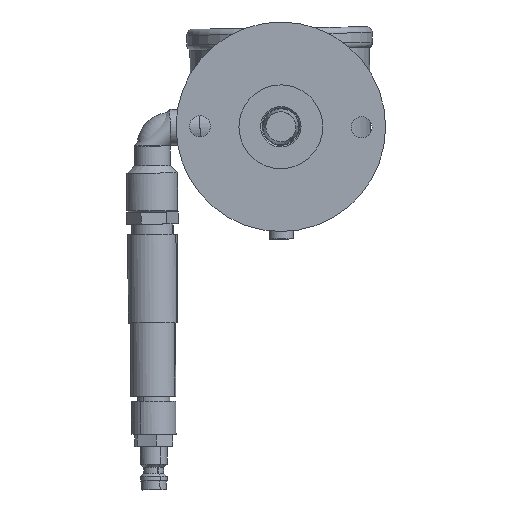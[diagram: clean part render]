
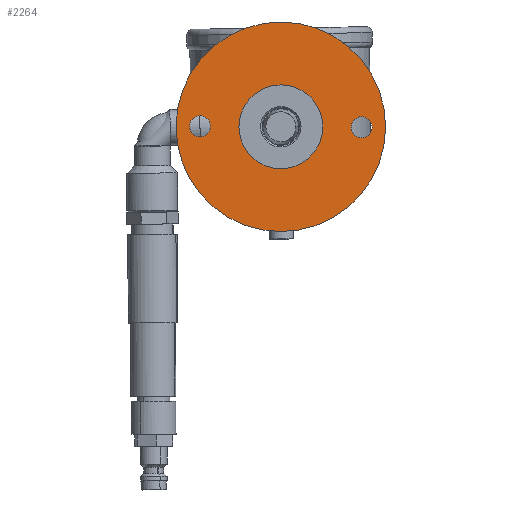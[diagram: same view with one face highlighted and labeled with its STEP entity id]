
A CAD part, front view. The second image highlights one B-rep face of the part: STEP entity #2264.
In plain terms, the highlighted planar face has unit normal (0, -1, 0) as drawn and (-1, 0, 0) by its records, which use the part's own axes.
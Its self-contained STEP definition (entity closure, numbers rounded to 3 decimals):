
#96 = VERTEX_POINT ( 'NONE', #4976 ) ;
#229 = FACE_BOUND ( 'NONE', #3207, .T. ) ;
#578 = ORIENTED_EDGE ( 'NONE', *, *, #2663, .T. ) ;
#581 = CARTESIAN_POINT ( 'NONE',  ( 3., 0., 35. ) ) ;
#588 = EDGE_CURVE ( 'NONE', #6175, #1622, #5638, .T. ) ;
#626 = EDGE_CURVE ( 'NONE', #96, #1164, #7284, .T. ) ;
#718 = PLANE ( 'NONE',  #5659 ) ;
#821 = CARTESIAN_POINT ( 'NONE',  ( 3., 0., -14. ) ) ;
#854 = CARTESIAN_POINT ( 'NONE',  ( 3., -27., 0. ) ) ;
#1164 = VERTEX_POINT ( 'NONE', #1555 ) ;
#1201 = VERTEX_POINT ( 'NONE', #7928 ) ;
#1424 = CARTESIAN_POINT ( 'NONE',  ( 3., 0., 0. ) ) ;
#1426 = DIRECTION ( 'NONE',  ( 0., 0., -1. ) ) ;
#1433 = CARTESIAN_POINT ( 'NONE',  ( 3., 0., 0. ) ) ;
#1466 = DIRECTION ( 'NONE',  ( 1., 0., 0. ) ) ;
#1503 = CARTESIAN_POINT ( 'NONE',  ( 3., 27., 0. ) ) ;
#1551 = DIRECTION ( 'NONE',  ( 0., 0., -1. ) ) ;
#1555 = CARTESIAN_POINT ( 'NONE',  ( 3., 27., 3.5 ) ) ;
#1622 = VERTEX_POINT ( 'NONE', #2908 ) ;
#1695 = CARTESIAN_POINT ( 'NONE',  ( 3., 0., 0. ) ) ;
#1754 = CARTESIAN_POINT ( 'NONE',  ( 3., 27., 0. ) ) ;
#1896 = FACE_BOUND ( 'NONE', #8776, .T. ) ;
#2123 = DIRECTION ( 'NONE',  ( 0., 0., -1. ) ) ;
#2135 = DIRECTION ( 'NONE',  ( 0., 0., -1. ) ) ;
#2199 = CARTESIAN_POINT ( 'NONE',  ( 3., -27., 3.5 ) ) ;
#2210 = DIRECTION ( 'NONE',  ( 0., 0., -1. ) ) ;
#2219 = AXIS2_PLACEMENT_3D ( 'NONE', #1433, #6391, #2135 ) ;
#2264 = ADVANCED_FACE ( 'NONE', ( #1896, #7312, #229, #5664 ), #718, .F. ) ;
#2409 = VERTEX_POINT ( 'NONE', #3860 ) ;
#2413 = DIRECTION ( 'NONE',  ( 0., 0., -1. ) ) ;
#2458 = DIRECTION ( 'NONE',  ( 0., 0., -1. ) ) ;
#2663 = EDGE_CURVE ( 'NONE', #1201, #4762, #3768, .T. ) ;
#2758 = AXIS2_PLACEMENT_3D ( 'NONE', #1424, #6383, #2123 ) ;
#2908 = CARTESIAN_POINT ( 'NONE',  ( 3., -27., -3.5 ) ) ;
#2982 = CARTESIAN_POINT ( 'NONE',  ( 3., 0., 0. ) ) ;
#3102 = CIRCLE ( 'NONE', #7783, 35. ) ;
#3168 = EDGE_CURVE ( 'NONE', #7591, #2409, #3102, .T. ) ;
#3207 = EDGE_LOOP ( 'NONE', ( #578, #3901 ) ) ;
#3557 = EDGE_CURVE ( 'NONE', #2409, #7591, #6362, .T. ) ;
#3582 = EDGE_LOOP ( 'NONE', ( #3685, #4486 ) ) ;
#3675 = DIRECTION ( 'NONE',  ( 0., 0., -1. ) ) ;
#3685 = ORIENTED_EDGE ( 'NONE', *, *, #626, .T. ) ;
#3768 = CIRCLE ( 'NONE', #4347, 14. ) ;
#3860 = CARTESIAN_POINT ( 'NONE',  ( 3., 0., -35. ) ) ;
#3901 = ORIENTED_EDGE ( 'NONE', *, *, #8119, .T. ) ;
#4347 = AXIS2_PLACEMENT_3D ( 'NONE', #2982, #7921, #3675 ) ;
#4486 = ORIENTED_EDGE ( 'NONE', *, *, #5732, .T. ) ;
#4566 = ORIENTED_EDGE ( 'NONE', *, *, #3557, .F. ) ;
#4762 = VERTEX_POINT ( 'NONE', #821 ) ;
#4976 = CARTESIAN_POINT ( 'NONE',  ( 3., 27., -3.5 ) ) ;
#5072 = AXIS2_PLACEMENT_3D ( 'NONE', #1754, #6711, #2458 ) ;
#5281 = CIRCLE ( 'NONE', #2758, 14. ) ;
#5300 = ORIENTED_EDGE ( 'NONE', *, *, #6208, .T. ) ;
#5638 = CIRCLE ( 'NONE', #6401, 3.5 ) ;
#5659 = AXIS2_PLACEMENT_3D ( 'NONE', #7757, #5675, #1426 ) ;
#5664 = FACE_OUTER_BOUND ( 'NONE', #6382, .T. ) ;
#5675 = DIRECTION ( 'NONE',  ( 1., 0., 0. ) ) ;
#5729 = CARTESIAN_POINT ( 'NONE',  ( 3., -27., 0. ) ) ;
#5732 = EDGE_CURVE ( 'NONE', #1164, #96, #7698, .T. ) ;
#5802 = DIRECTION ( 'NONE',  ( 1., 0., 0. ) ) ;
#6065 = ORIENTED_EDGE ( 'NONE', *, *, #3168, .F. ) ;
#6175 = VERTEX_POINT ( 'NONE', #2199 ) ;
#6208 = EDGE_CURVE ( 'NONE', #1622, #6175, #9090, .T. ) ;
#6362 = CIRCLE ( 'NONE', #2219, 35. ) ;
#6382 = EDGE_LOOP ( 'NONE', ( #6065, #4566 ) ) ;
#6383 = DIRECTION ( 'NONE',  ( 1., 0., 0. ) ) ;
#6391 = DIRECTION ( 'NONE',  ( 1., 0., 0. ) ) ;
#6401 = AXIS2_PLACEMENT_3D ( 'NONE', #5729, #1466, #6429 ) ;
#6429 = DIRECTION ( 'NONE',  ( 0., 0., -1. ) ) ;
#6460 = DIRECTION ( 'NONE',  ( 1., 0., 0. ) ) ;
#6660 = DIRECTION ( 'NONE',  ( 1., 0., 0. ) ) ;
#6711 = DIRECTION ( 'NONE',  ( 1., 0., 0. ) ) ;
#7284 = CIRCLE ( 'NONE', #7339, 3.5 ) ;
#7312 = FACE_BOUND ( 'NONE', #3582, .T. ) ;
#7339 = AXIS2_PLACEMENT_3D ( 'NONE', #1503, #6460, #2210 ) ;
#7542 = AXIS2_PLACEMENT_3D ( 'NONE', #854, #5802, #1551 ) ;
#7591 = VERTEX_POINT ( 'NONE', #581 ) ;
#7698 = CIRCLE ( 'NONE', #5072, 3.5 ) ;
#7757 = CARTESIAN_POINT ( 'NONE',  ( 3., 0., 0. ) ) ;
#7783 = AXIS2_PLACEMENT_3D ( 'NONE', #1695, #6660, #2413 ) ;
#7921 = DIRECTION ( 'NONE',  ( 1., 0., 0. ) ) ;
#7928 = CARTESIAN_POINT ( 'NONE',  ( 3., 0., 14. ) ) ;
#8119 = EDGE_CURVE ( 'NONE', #4762, #1201, #5281, .T. ) ;
#8245 = ORIENTED_EDGE ( 'NONE', *, *, #588, .T. ) ;
#8776 = EDGE_LOOP ( 'NONE', ( #5300, #8245 ) ) ;
#9090 = CIRCLE ( 'NONE', #7542, 3.5 ) ;
